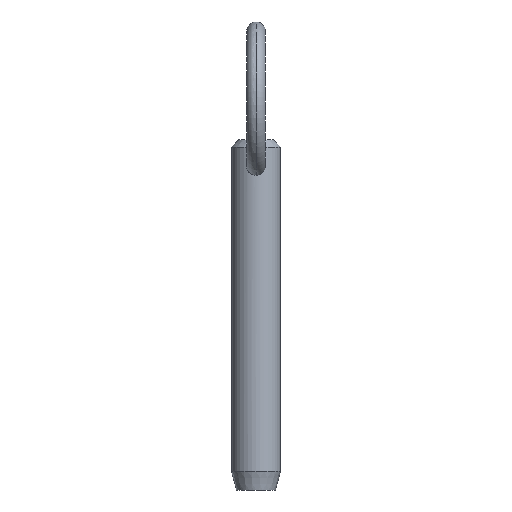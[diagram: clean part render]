
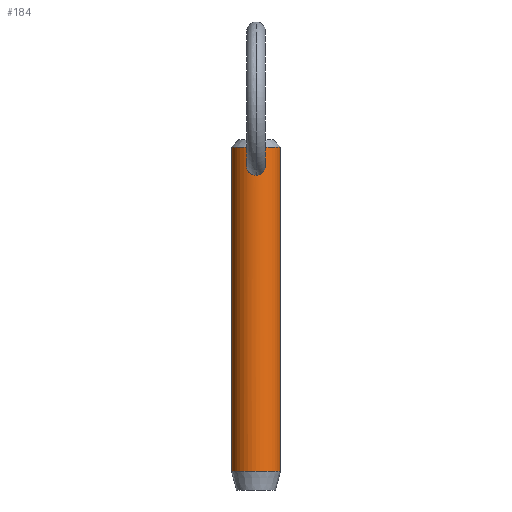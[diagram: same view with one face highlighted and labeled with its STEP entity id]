
A CAD part, front view. The second image highlights one B-rep face of the part: STEP entity #184.
In plain terms, the highlighted cylindrical face has radius 3.965 mm (diameter 7.93 mm), a partial arc.
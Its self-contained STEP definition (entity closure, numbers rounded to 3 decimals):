
#5 = VERTEX_POINT ( 'NONE', #33 ) ;
#25 = CARTESIAN_POINT ( 'NONE',  ( -0.77, -3.894, 44.3 ) ) ;
#27 = LINE ( 'NONE', #423, #269 ) ;
#33 = CARTESIAN_POINT ( 'NONE',  ( -3.965, 0., -6.52 ) ) ;
#38 = CARTESIAN_POINT ( 'NONE',  ( 0.404, -3.946, 44.482 ) ) ;
#39 = VERTEX_POINT ( 'NONE', #369 ) ;
#40 = CARTESIAN_POINT ( 'NONE',  ( 0.693, -3.905, 41.49 ) ) ;
#41 = EDGE_CURVE ( 'NONE', #409, #39, #54, .T. ) ;
#45 = CARTESIAN_POINT ( 'NONE',  ( 0., 0., -6.52 ) ) ;
#47 = DIRECTION ( 'NONE',  ( 0., 0., 1. ) ) ;
#54 = B_SPLINE_CURVE_WITH_KNOTS ( 'NONE', 3,
 ( #298, #339, #171, #38, #138, #403, #365, #478, #94, #510, #180, #91, #214, #134, #513, #337, #302, #258, #436, #216, #334, #217, #40, #474, #367, #261 ),
 .UNSPECIFIED., .F., .F.,
 ( 4, 2, 2, 2, 2, 2, 2, 2, 2, 2, 2, 2, 4 ),
 ( 0.004, 0.005, 0.005, 0.005, 0.006, 0.006, 0.007, 0.007, 0.007, 0.008, 0.008, 0.008, 0.009 ),
 .UNSPECIFIED. ) ;
#64 = CARTESIAN_POINT ( 'NONE',  ( 0., -3.965, 41.335 ) ) ;
#68 = DIRECTION ( 'NONE',  ( -1., 0., 0. ) ) ;
#76 = CARTESIAN_POINT ( 'NONE',  ( -1.508, -3.667, 42.697 ) ) ;
#77 = ORIENTED_EDGE ( 'NONE', *, *, #101, .T. ) ;
#78 = EDGE_CURVE ( 'NONE', #188, #246, #360, .T. ) ;
#79 = CARTESIAN_POINT ( 'NONE',  ( -0.925, -3.858, 44.168 ) ) ;
#87 = FACE_OUTER_BOUND ( 'NONE', #223, .T. ) ;
#90 = AXIS2_PLACEMENT_3D ( 'NONE', #133, #435, #471 ) ;
#91 = CARTESIAN_POINT ( 'NONE',  ( 1.479, -3.679, 43.107 ) ) ;
#93 = CARTESIAN_POINT ( 'NONE',  ( 3.965, 0., 40.7 ) ) ;
#94 = CARTESIAN_POINT ( 'NONE',  ( 1.291, -3.75, 43.683 ) ) ;
#101 = EDGE_CURVE ( 'NONE', #188, #505, #440, .T. ) ;
#103 = B_SPLINE_CURVE_WITH_KNOTS ( 'NONE', 3,
 ( #64, #114, #419, #200, #416, #462, #326, #425, #292, #119, #76, #248, #497, #117, #323, #79, #25, #162, #203, #163, #286, #358 ),
 .UNSPECIFIED., .F., .F.,
 ( 4, 2, 2, 2, 2, 2, 2, 2, 2, 2, 4 ),
 ( 0.009, 0.01, 0.01, 0.011, 0.011, 0.012, 0.012, 0.013, 0.013, 0.014, 0.014 ),
 .UNSPECIFIED. ) ;
#109 = DIRECTION ( 'NONE',  ( 0., 0., -1. ) ) ;
#114 = CARTESIAN_POINT ( 'NONE',  ( -0.205, -3.965, 41.335 ) ) ;
#115 = CYLINDRICAL_SURFACE ( 'NONE', #153, 3.965 ) ;
#117 = CARTESIAN_POINT ( 'NONE',  ( -1.29, -3.75, 43.685 ) ) ;
#119 = CARTESIAN_POINT ( 'NONE',  ( -1.48, -3.679, 42.489 ) ) ;
#121 = AXIS2_PLACEMENT_3D ( 'NONE', #45, #47, #148 ) ;
#132 = EDGE_CURVE ( 'NONE', #5, #246, #231, .T. ) ;
#133 = CARTESIAN_POINT ( 'NONE',  ( 0., 0., 45.85 ) ) ;
#134 = CARTESIAN_POINT ( 'NONE',  ( 1.503, -3.669, 42.799 ) ) ;
#136 = DIRECTION ( 'NONE',  ( 0., 0., -1. ) ) ;
#138 = CARTESIAN_POINT ( 'NONE',  ( 0.498, -3.935, 44.444 ) ) ;
#148 = DIRECTION ( 'NONE',  ( -1., 0., 0. ) ) ;
#152 = CARTESIAN_POINT ( 'NONE',  ( 0., 0., 40.7 ) ) ;
#153 = AXIS2_PLACEMENT_3D ( 'NONE', #152, #109, #68 ) ;
#162 = CARTESIAN_POINT ( 'NONE',  ( -0.498, -3.935, 44.444 ) ) ;
#163 = CARTESIAN_POINT ( 'NONE',  ( -0.206, -3.961, 44.534 ) ) ;
#170 = ORIENTED_EDGE ( 'NONE', *, *, #132, .T. ) ;
#171 = CARTESIAN_POINT ( 'NONE',  ( 0.205, -3.961, 44.534 ) ) ;
#180 = CARTESIAN_POINT ( 'NONE',  ( 1.434, -3.697, 43.305 ) ) ;
#184 = ADVANCED_FACE ( 'NONE', ( #87, #509 ), #115, .T. ) ;
#188 = VERTEX_POINT ( 'NONE', #490 ) ;
#200 = CARTESIAN_POINT ( 'NONE',  ( -0.788, -3.891, 41.528 ) ) ;
#203 = CARTESIAN_POINT ( 'NONE',  ( -0.403, -3.946, 44.482 ) ) ;
#206 = CARTESIAN_POINT ( 'NONE',  ( 0., -3.965, 44.547 ) ) ;
#214 = CARTESIAN_POINT ( 'NONE',  ( 1.493, -3.673, 43.004 ) ) ;
#216 = CARTESIAN_POINT ( 'NONE',  ( 1.028, -3.83, 41.715 ) ) ;
#217 = CARTESIAN_POINT ( 'NONE',  ( 0.782, -3.888, 41.537 ) ) ;
#219 = DIRECTION ( 'NONE',  ( 0., 0., -1. ) ) ;
#223 = EDGE_LOOP ( 'NONE', ( #405, #77, #446, #170 ) ) ;
#231 = CIRCLE ( 'NONE', #121, 3.965 ) ;
#245 = EDGE_LOOP ( 'NONE', ( #504, #468 ) ) ;
#246 = VERTEX_POINT ( 'NONE', #354 ) ;
#248 = CARTESIAN_POINT ( 'NONE',  ( -1.488, -3.675, 43.105 ) ) ;
#253 = EDGE_CURVE ( 'NONE', #39, #409, #103, .T. ) ;
#258 = CARTESIAN_POINT ( 'NONE',  ( 1.346, -3.73, 42.108 ) ) ;
#261 = CARTESIAN_POINT ( 'NONE',  ( 0., -3.965, 41.335 ) ) ;
#269 = VECTOR ( 'NONE', #136, 1000. ) ;
#286 = CARTESIAN_POINT ( 'NONE',  ( -0.102, -3.965, 44.547 ) ) ;
#292 = CARTESIAN_POINT ( 'NONE',  ( -1.379, -3.718, 42.203 ) ) ;
#294 = VECTOR ( 'NONE', #219, 1000. ) ;
#298 = CARTESIAN_POINT ( 'NONE',  ( 0., -3.965, 44.547 ) ) ;
#302 = CARTESIAN_POINT ( 'NONE',  ( 1.447, -3.692, 42.393 ) ) ;
#308 = EDGE_CURVE ( 'NONE', #505, #5, #27, .T. ) ;
#323 = CARTESIAN_POINT ( 'NONE',  ( -1.186, -3.786, 43.86 ) ) ;
#326 = CARTESIAN_POINT ( 'NONE',  ( -1.229, -3.77, 41.939 ) ) ;
#334 = CARTESIAN_POINT ( 'NONE',  ( 0.949, -3.851, 41.649 ) ) ;
#337 = CARTESIAN_POINT ( 'NONE',  ( 1.471, -3.682, 42.494 ) ) ;
#339 = CARTESIAN_POINT ( 'NONE',  ( 0.102, -3.965, 44.547 ) ) ;
#354 = CARTESIAN_POINT ( 'NONE',  ( 3.965, 0., -6.52 ) ) ;
#358 = CARTESIAN_POINT ( 'NONE',  ( 0., -3.965, 44.547 ) ) ;
#360 = LINE ( 'NONE', #93, #294 ) ;
#365 = CARTESIAN_POINT ( 'NONE',  ( 0.925, -3.858, 44.168 ) ) ;
#367 = CARTESIAN_POINT ( 'NONE',  ( 0.205, -3.965, 41.335 ) ) ;
#369 = CARTESIAN_POINT ( 'NONE',  ( 0., -3.965, 41.335 ) ) ;
#403 = CARTESIAN_POINT ( 'NONE',  ( 0.77, -3.894, 44.3 ) ) ;
#405 = ORIENTED_EDGE ( 'NONE', *, *, #78, .F. ) ;
#408 = CARTESIAN_POINT ( 'NONE',  ( -3.965, 0., 45.85 ) ) ;
#409 = VERTEX_POINT ( 'NONE', #206 ) ;
#416 = CARTESIAN_POINT ( 'NONE',  ( -0.957, -3.85, 41.641 ) ) ;
#419 = CARTESIAN_POINT ( 'NONE',  ( -0.41, -3.948, 41.374 ) ) ;
#423 = CARTESIAN_POINT ( 'NONE',  ( -3.965, 0., 40.7 ) ) ;
#425 = CARTESIAN_POINT ( 'NONE',  ( -1.335, -3.734, 42.11 ) ) ;
#435 = DIRECTION ( 'NONE',  ( 0., 0., -1. ) ) ;
#436 = CARTESIAN_POINT ( 'NONE',  ( 1.237, -3.77, 41.931 ) ) ;
#440 = CIRCLE ( 'NONE', #90, 3.965 ) ;
#446 = ORIENTED_EDGE ( 'NONE', *, *, #308, .T. ) ;
#462 = CARTESIAN_POINT ( 'NONE',  ( -1.168, -3.79, 41.859 ) ) ;
#468 = ORIENTED_EDGE ( 'NONE', *, *, #253, .T. ) ;
#471 = DIRECTION ( 'NONE',  ( 1., 0., 0. ) ) ;
#474 = CARTESIAN_POINT ( 'NONE',  ( 0.409, -3.948, 41.374 ) ) ;
#478 = CARTESIAN_POINT ( 'NONE',  ( 1.186, -3.786, 43.859 ) ) ;
#490 = CARTESIAN_POINT ( 'NONE',  ( 3.965, 0., 45.85 ) ) ;
#497 = CARTESIAN_POINT ( 'NONE',  ( -1.441, -3.695, 43.308 ) ) ;
#504 = ORIENTED_EDGE ( 'NONE', *, *, #41, .T. ) ;
#505 = VERTEX_POINT ( 'NONE', #408 ) ;
#509 = FACE_BOUND ( 'NONE', #245, .T. ) ;
#510 = CARTESIAN_POINT ( 'NONE',  ( 1.404, -3.708, 43.401 ) ) ;
#513 = CARTESIAN_POINT ( 'NONE',  ( 1.499, -3.671, 42.697 ) ) ;
